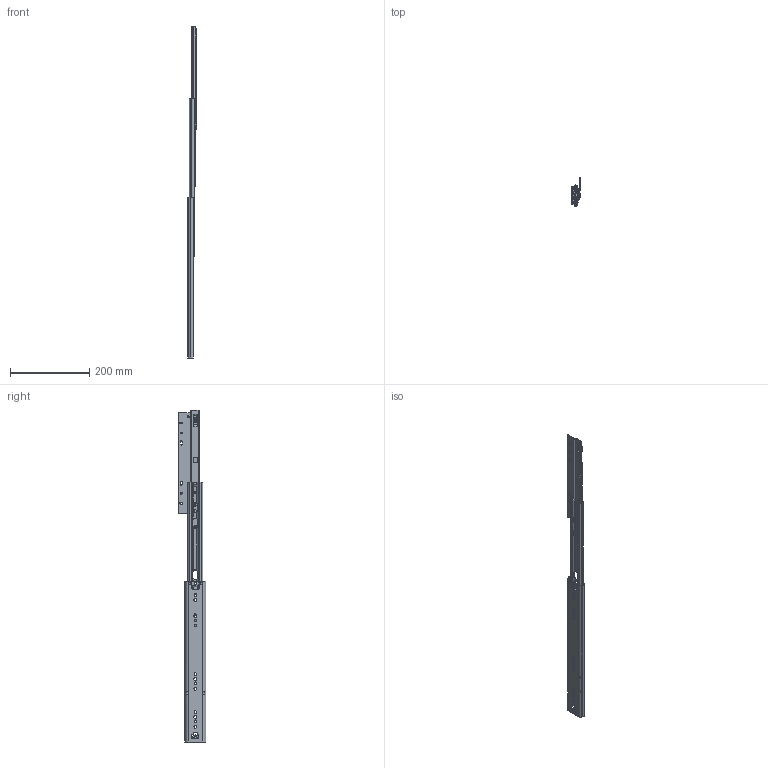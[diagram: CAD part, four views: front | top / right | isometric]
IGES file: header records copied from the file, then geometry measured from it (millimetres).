
Global section: file name: No Iges File Name specified; native system: Autodesk Inventor 2012; preprocessor: AutoDesk Inventor Iges Exporter R2012; author: HV83751; date: 20130708.084846; units: inch
Bounding box: 22.61 x 70.18 x 838.66 mm (x, y, z)
Surface area: 191239.9 mm2
Topology: 6 solids, 23 shells, 1462 faces, 4319 edges, 2785 vertices
Faces by surface type: plane 746, revolution 374, cylinder 293, bspline 40, torus 9
